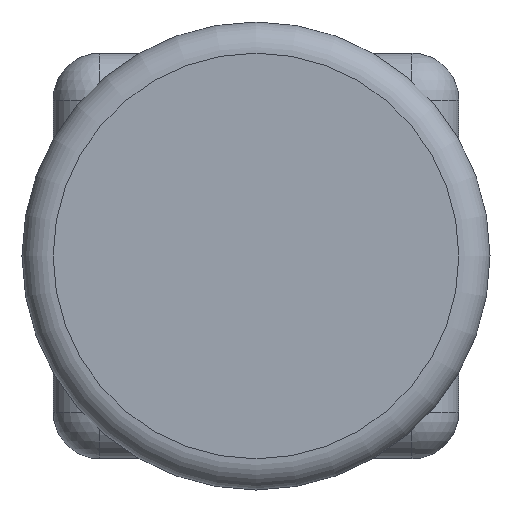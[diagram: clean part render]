
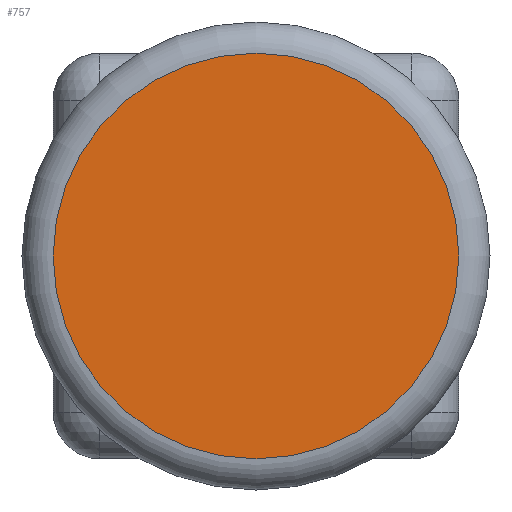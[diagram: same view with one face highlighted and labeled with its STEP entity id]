
A CAD part, left-side view. The second image highlights one B-rep face of the part: STEP entity #757.
In plain terms, the highlighted planar face has unit normal (-1, 0, 0).
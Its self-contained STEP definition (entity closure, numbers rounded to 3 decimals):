
#169=ORIENTED_EDGE('',*,*,#381,.T.);
#381=EDGE_CURVE('',#487,#487,#553,.T.);
#487=VERTEX_POINT('',#1252);
#553=CIRCLE('',#867,0.65);
#603=EDGE_LOOP('',(#169));
#669=FACE_BOUND('',#603,.T.);
#735=PLANE('',#866);
#757=ADVANCED_FACE('',(#669),#735,.T.);
#866=AXIS2_PLACEMENT_3D('',#1250,#978,#979);
#867=AXIS2_PLACEMENT_3D('',#1251,#980,#981);
#978=DIRECTION('',(-1.,0.,0.));
#979=DIRECTION('',(0.,0.,1.));
#980=DIRECTION('',(-1.,0.,0.));
#981=DIRECTION('',(0.,0.,1.));
#1250=CARTESIAN_POINT('',(-1.72,0.,0.));
#1251=CARTESIAN_POINT('',(-1.72,0.,0.));
#1252=CARTESIAN_POINT('',(-1.72,0.,0.65));
